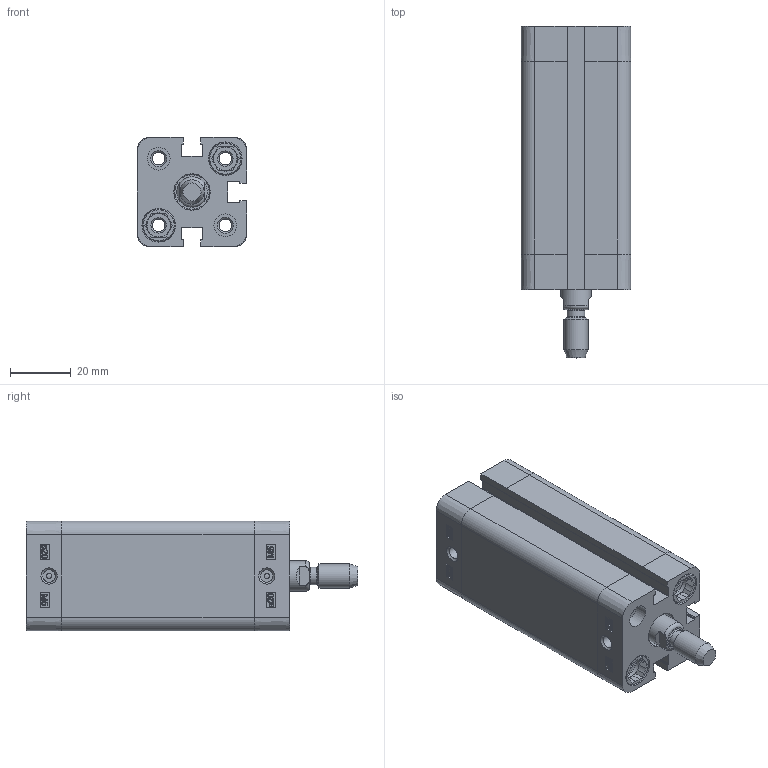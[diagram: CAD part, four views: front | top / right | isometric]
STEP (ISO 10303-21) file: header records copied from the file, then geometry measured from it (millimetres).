
FILE_DESCRIPTION((''),'2;1');
FILE_NAME('T:\Archivio Inventor\- CATALOGHI 2012\SERIE P - NUOVA\PDM\PDM020\PDM020.---.GS.M\STEP\PDM020.050.GS.M.stp','2013-01-30T10:57:05',('Administrator'),(''),'Autodesk Inventor 2012','Autodesk Inventor 2012','');
FILE_SCHEMA(('CONFIG_CONTROL_DESIGN'));
Length unit declared in the file: millimetre
Products named in the file (1): PDM020.050.GS.M
Bounding box: 36.3 x 109.6 x 36.3 mm (x, y, z)
Volume: 62781.3 mm3; surface area: 35794 mm2
Topology: 1 solids, 3 shells, 489 faces, 1225 edges, 798 vertices
Faces by surface type: plane 245, bspline 94, cylinder 88, cone 50, torus 12
Full cylindrical faces by diameter (mm): 1.75 x2, 4.134 x10, 5.8 x1, 7.5 x4, 7.55 x2, 8 x9, 9 x1, 10 x1, 10.8 x4, 11.1 x4, 11.4 x1, 20 x1, 22.3 x1, 22.5 x1
Entity records: 15051 total; most frequent: CARTESIAN_POINT 3734, ORIENTED_EDGE 2232, DIRECTION 1950, EDGE_CURVE 1116, VERTEX_POINT 782, VECTOR 670, LINE 670, EDGE_LOOP 652
